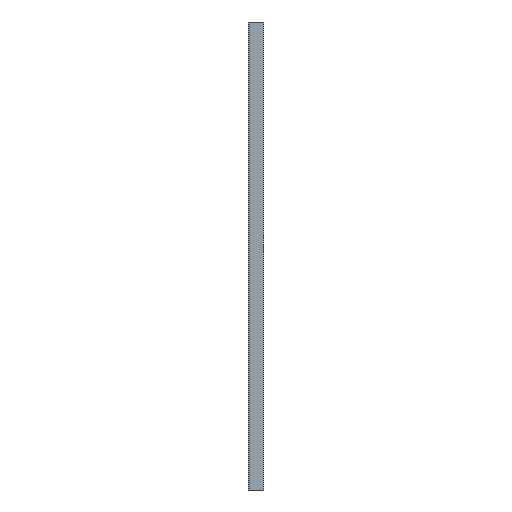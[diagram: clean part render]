
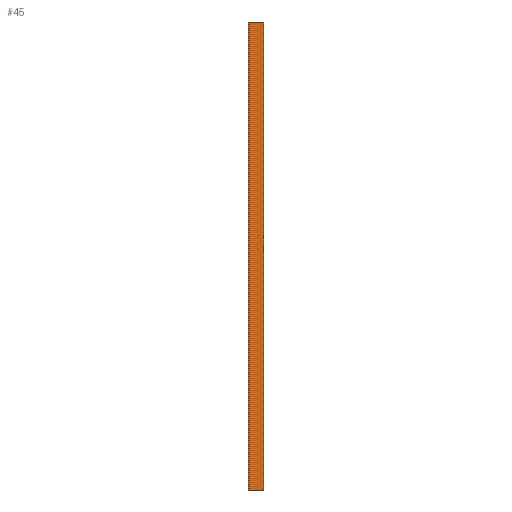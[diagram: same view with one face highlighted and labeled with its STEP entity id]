
A CAD part, left-side view. The second image highlights one B-rep face of the part: STEP entity #45.
In plain terms, the highlighted planar face has unit normal (-1, 0, 0).
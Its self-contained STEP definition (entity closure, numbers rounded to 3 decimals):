
#10 = EDGE_LOOP ( 'NONE', ( #42, #427, #466, #413 ) ) ;
#30 = VERTEX_POINT ( 'NONE', #964 ) ;
#40 = LINE ( 'NONE', #1083, #702 ) ;
#42 = ORIENTED_EDGE ( 'NONE', *, *, #97, .F. ) ;
#45 = ADVANCED_FACE ( 'NONE', ( #72 ), #404, .T. ) ;
#53 = LINE ( 'NONE', #912, #624 ) ;
#72 = FACE_OUTER_BOUND ( 'NONE', #10, .T. ) ;
#97 = EDGE_CURVE ( 'NONE', #579, #400, #446, .T. ) ;
#155 = CARTESIAN_POINT ( 'NONE',  ( -405.5, 0., -554. ) ) ;
#252 = LINE ( 'NONE', #966, #590 ) ;
#261 = EDGE_CURVE ( 'NONE', #934, #400, #53, .T. ) ;
#388 = EDGE_CURVE ( 'NONE', #30, #579, #252, .T. ) ;
#400 = VERTEX_POINT ( 'NONE', #572 ) ;
#404 = PLANE ( 'NONE',  #890 ) ;
#413 = ORIENTED_EDGE ( 'NONE', *, *, #261, .T. ) ;
#427 = ORIENTED_EDGE ( 'NONE', *, *, #388, .F. ) ;
#435 = DIRECTION ( 'NONE',  ( 0., 1., 0. ) ) ;
#446 = LINE ( 'NONE', #879, #799 ) ;
#466 = ORIENTED_EDGE ( 'NONE', *, *, #651, .T. ) ;
#504 = DIRECTION ( 'NONE',  ( 0., 0., 1. ) ) ;
#572 = CARTESIAN_POINT ( 'NONE',  ( -405.5, 0., 50. ) ) ;
#579 = VERTEX_POINT ( 'NONE', #155 ) ;
#588 = DIRECTION ( 'NONE',  ( -1., 0., 0. ) ) ;
#590 = VECTOR ( 'NONE', #435, 1000. ) ;
#624 = VECTOR ( 'NONE', #734, 1000. ) ;
#651 = EDGE_CURVE ( 'NONE', #30, #934, #40, .T. ) ;
#678 = CARTESIAN_POINT ( 'NONE',  ( -405.5, -20., -554. ) ) ;
#702 = VECTOR ( 'NONE', #721, 1000. ) ;
#721 = DIRECTION ( 'NONE',  ( 0., 0., 1. ) ) ;
#734 = DIRECTION ( 'NONE',  ( 0., 1., 0. ) ) ;
#799 = VECTOR ( 'NONE', #973, 1000. ) ;
#858 = CARTESIAN_POINT ( 'NONE',  ( -405.5, -20., 50. ) ) ;
#879 = CARTESIAN_POINT ( 'NONE',  ( -405.5, 0., -554. ) ) ;
#890 = AXIS2_PLACEMENT_3D ( 'NONE', #678, #588, #504 ) ;
#912 = CARTESIAN_POINT ( 'NONE',  ( -405.5, -20., 50. ) ) ;
#934 = VERTEX_POINT ( 'NONE', #858 ) ;
#964 = CARTESIAN_POINT ( 'NONE',  ( -405.5, -20., -554. ) ) ;
#966 = CARTESIAN_POINT ( 'NONE',  ( -405.5, -20., -554. ) ) ;
#973 = DIRECTION ( 'NONE',  ( 0., 0., 1. ) ) ;
#1083 = CARTESIAN_POINT ( 'NONE',  ( -405.5, -20., -554. ) ) ;
